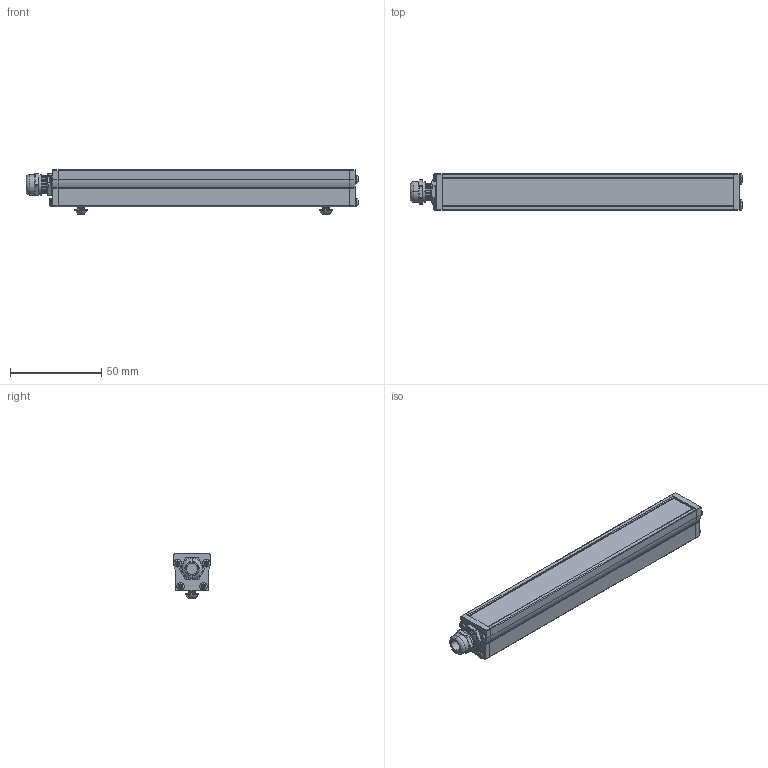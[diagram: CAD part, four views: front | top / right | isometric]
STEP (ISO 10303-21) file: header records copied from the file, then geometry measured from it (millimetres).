
FILE_DESCRIPTION (( 'STEP AP214' ), '1' );
FILE_NAME ('AL126 _NONSEALED__AL12606.stp', '2021-04-29T14:24:56', ( '' ), ( '' ), 'SwSTEP 2.0', 'SolidWorks 2018', '' );
FILE_SCHEMA (( 'AUTOMOTIVE_DESIGN' ));
Length unit declared in the file: inch
Products named in the file (15): 10mm Advanced illumination; 10mm Label (116 126)_Default<As Machined>; HN-M4_90592A016; 10mm Swish_Default<As Machined>; 093474_093474; 10mm Ai; 091064_Model_Dome Fittings_Thread Type and Size(Dome)_M10 x 1.5_Hazardous Location-Explosive Proof(ATEX and EExe Versions)_No_; 090877-XX_090877-06; 093469_093469; AL126 _NONSEALED__AL12606; BH-M4x6; 090876; 090875; 091052 (116 126); 090889-XX_090889-06
Assembly tree (24 placements, depth 3):
  AL126 _NONSEALED__AL12606
    090889-XX_090889-06
    090877-XX_090877-06
    090875
    090876
    093474_093474  x8
    093469_093469  x2
    091064_Model_Dome Fittings_Thread Type and Size(Dome)_M10 x 1.5_Hazardous Location-Explosive Proof(ATEX and EExe Versions)_No_
    HN-M4_90592A016  x2
    BH-M4x6  x2
    091052 (116 126)
      10mm Label (116 126)_Default<As Machined>
      10mm Ai
      10mm Swish_Default<As Machined>
      10mm Advanced illumination
Bounding box: 181.53 x 20.02 x 24.1 mm (x, y, z)
Volume: 24939.5 mm3; surface area: 36415.2 mm2
Topology: 48 solids, 48 shells, 1877 faces, 4840 edges, 3010 vertices
Faces by surface type: cylinder 934, plane 401, cone 362, bspline 120, torus 60
Entity records: 30293 total; most frequent: CARTESIAN_POINT 10456, ORIENTED_EDGE 4076, DIRECTION 3580, EDGE_CURVE 2038, VERTEX_POINT 1298, AXIS2_PLACEMENT_3D 1276, VECTOR 1028, LINE 1028
